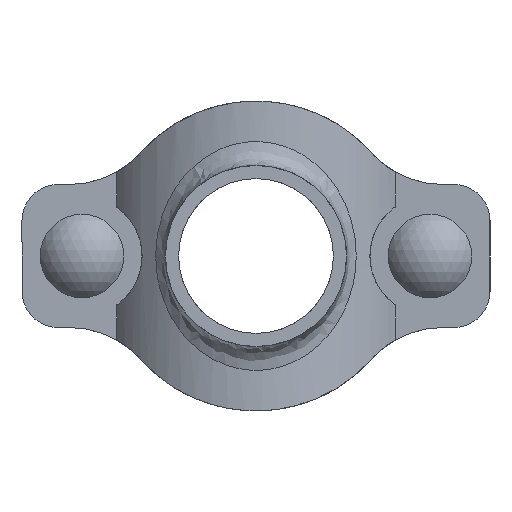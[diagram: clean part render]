
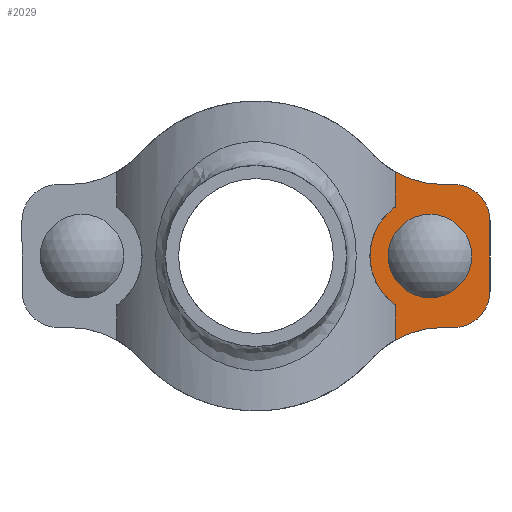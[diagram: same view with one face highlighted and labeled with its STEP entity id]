
A CAD part, front view. The second image highlights one B-rep face of the part: STEP entity #2029.
In plain terms, the highlighted planar face has unit normal (0, -1, 0) as drawn and (0, 1, 0) by its records, which use the part's own axes.
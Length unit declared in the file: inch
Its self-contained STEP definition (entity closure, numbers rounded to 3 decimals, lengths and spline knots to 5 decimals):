
#126=FACE_BOUND('',#349,.T.);
#219=FACE_OUTER_BOUND('',#348,.T.);
#348=EDGE_LOOP('',(#1667,#1668,#1669,#1670,#1671,#1672,#1673,#1674,#1675,
#1676));
#349=EDGE_LOOP('',(#1677,#1678,#1679,#1680));
#465=LINE('',#3864,#615);
#468=LINE('',#3970,#618);
#480=LINE('',#4014,#630);
#484=LINE('',#4025,#634);
#496=LINE('',#4219,#646);
#497=LINE('',#4223,#647);
#498=LINE('',#4227,#648);
#615=VECTOR('',#2675,0.3937);
#618=VECTOR('',#2678,0.3937);
#630=VECTOR('',#2726,0.3937);
#634=VECTOR('',#2738,0.3937);
#646=VECTOR('',#2800,0.3937);
#647=VECTOR('',#2803,0.3937);
#648=VECTOR('',#2806,0.3937);
#730=CIRCLE('',#2242,0.63);
#736=CIRCLE('',#2254,0.2875);
#738=CIRCLE('',#2258,0.2875);
#754=CIRCLE('',#2285,1.);
#755=CIRCLE('',#2286,0.38);
#756=CIRCLE('',#2287,0.38);
#757=CIRCLE('',#2288,1.);
#884=VERTEX_POINT('',#3843);
#885=VERTEX_POINT('',#3844);
#886=VERTEX_POINT('',#3863);
#895=VERTEX_POINT('',#3961);
#905=VERTEX_POINT('',#4004);
#906=VERTEX_POINT('',#4005);
#909=VERTEX_POINT('',#4013);
#911=VERTEX_POINT('',#4019);
#934=VERTEX_POINT('',#4216);
#935=VERTEX_POINT('',#4218);
#936=VERTEX_POINT('',#4220);
#937=VERTEX_POINT('',#4222);
#938=VERTEX_POINT('',#4224);
#939=VERTEX_POINT('',#4226);
#1125=EDGE_CURVE('',#886,#885,#465,.T.);
#1135=EDGE_CURVE('',#884,#895,#468,.T.);
#1138=EDGE_CURVE('',#884,#885,#730,.T.);
#1152=EDGE_CURVE('',#905,#906,#736,.T.);
#1156=EDGE_CURVE('',#906,#909,#480,.T.);
#1159=EDGE_CURVE('',#909,#911,#738,.T.);
#1162=EDGE_CURVE('',#911,#905,#484,.T.);
#1191=EDGE_CURVE('',#934,#895,#754,.T.);
#1192=EDGE_CURVE('',#935,#934,#496,.T.);
#1193=EDGE_CURVE('',#936,#935,#755,.T.);
#1194=EDGE_CURVE('',#937,#936,#497,.T.);
#1195=EDGE_CURVE('',#938,#937,#756,.T.);
#1196=EDGE_CURVE('',#939,#938,#498,.T.);
#1197=EDGE_CURVE('',#886,#939,#757,.T.);
#1667=ORIENTED_EDGE('',*,*,#1135,.T.);
#1668=ORIENTED_EDGE('',*,*,#1191,.F.);
#1669=ORIENTED_EDGE('',*,*,#1192,.F.);
#1670=ORIENTED_EDGE('',*,*,#1193,.F.);
#1671=ORIENTED_EDGE('',*,*,#1194,.F.);
#1672=ORIENTED_EDGE('',*,*,#1195,.F.);
#1673=ORIENTED_EDGE('',*,*,#1196,.F.);
#1674=ORIENTED_EDGE('',*,*,#1197,.F.);
#1675=ORIENTED_EDGE('',*,*,#1125,.T.);
#1676=ORIENTED_EDGE('',*,*,#1138,.F.);
#1677=ORIENTED_EDGE('',*,*,#1159,.T.);
#1678=ORIENTED_EDGE('',*,*,#1162,.T.);
#1679=ORIENTED_EDGE('',*,*,#1152,.T.);
#1680=ORIENTED_EDGE('',*,*,#1156,.T.);
#1820=PLANE('',#2284);
#2029=ADVANCED_FACE('',(#219,#126),#1820,.F.);
#2242=AXIS2_PLACEMENT_3D('',#3976,#2686,#2687);
#2254=AXIS2_PLACEMENT_3D('',#4006,#2718,#2719);
#2258=AXIS2_PLACEMENT_3D('',#4020,#2731,#2732);
#2284=AXIS2_PLACEMENT_3D('',#4215,#2796,#2797);
#2285=AXIS2_PLACEMENT_3D('',#4217,#2798,#2799);
#2286=AXIS2_PLACEMENT_3D('',#4221,#2801,#2802);
#2287=AXIS2_PLACEMENT_3D('',#4225,#2804,#2805);
#2288=AXIS2_PLACEMENT_3D('',#4228,#2807,#2808);
#2675=DIRECTION('',(0.,0.,-1.));
#2678=DIRECTION('',(0.,0.,-1.));
#2686=DIRECTION('center_axis',(0.,-1.,0.));
#2687=DIRECTION('ref_axis',(1.,0.,0.));
#2718=DIRECTION('center_axis',(0.,-1.,0.));
#2719=DIRECTION('ref_axis',(-1.,0.,0.));
#2726=DIRECTION('',(0.,0.,-1.));
#2731=DIRECTION('center_axis',(0.,-1.,0.));
#2732=DIRECTION('ref_axis',(1.,0.,0.));
#2738=DIRECTION('',(0.,0.,1.));
#2796=DIRECTION('center_axis',(0.,-1.,0.));
#2797=DIRECTION('ref_axis',(1.,0.,0.));
#2798=DIRECTION('center_axis',(0.,1.,0.));
#2799=DIRECTION('ref_axis',(0.,0.,-1.));
#2800=DIRECTION('',(1.,0.,0.));
#2801=DIRECTION('center_axis',(0.,-1.,0.));
#2802=DIRECTION('ref_axis',(0.,0.,-1.));
#2803=DIRECTION('',(0.,0.,-1.));
#2804=DIRECTION('center_axis',(0.,-1.,0.));
#2805=DIRECTION('ref_axis',(-1.,0.,0.));
#2806=DIRECTION('',(-1.,0.,0.));
#2807=DIRECTION('center_axis',(0.,1.,0.));
#2808=DIRECTION('ref_axis',(-0.745,0.,0.667));
#3843=CARTESIAN_POINT('',(-1.46045,1.,-0.51381));
#3844=CARTESIAN_POINT('',(-1.46045,1.,0.51381));
#3863=CARTESIAN_POINT('',(-1.46045,1.,0.88174));
#3864=CARTESIAN_POINT('',(-1.46045,1.,0.));
#3961=CARTESIAN_POINT('',(-1.46045,1.,-0.88174));
#3970=CARTESIAN_POINT('',(-1.46045,1.,0.));
#3976=CARTESIAN_POINT('Origin',(-1.825,1.,0.));
#4004=CARTESIAN_POINT('',(-1.5375,1.,0.0925));
#4005=CARTESIAN_POINT('',(-2.1125,1.,0.0925));
#4006=CARTESIAN_POINT('Origin',(-1.825,1.,0.0925));
#4013=CARTESIAN_POINT('',(-2.1125,1.,-0.0925));
#4014=CARTESIAN_POINT('',(-2.1125,1.,-0.04625));
#4019=CARTESIAN_POINT('',(-1.5375,1.,-0.0925));
#4020=CARTESIAN_POINT('Origin',(-1.825,1.,-0.0925));
#4025=CARTESIAN_POINT('',(-1.5375,1.,0.04625));
#4215=CARTESIAN_POINT('Origin',(-2.455,1.,0.));
#4216=CARTESIAN_POINT('',(-1.95656,1.,-0.75));
#4217=CARTESIAN_POINT('Origin',(-1.95656,1.,-1.75));
#4218=CARTESIAN_POINT('',(-2.075,1.,-0.75));
#4219=CARTESIAN_POINT('',(-2.20578,1.,-0.75));
#4220=CARTESIAN_POINT('',(-2.455,1.,-0.37));
#4221=CARTESIAN_POINT('Origin',(-2.075,1.,-0.37));
#4222=CARTESIAN_POINT('',(-2.455,1.,0.37));
#4223=CARTESIAN_POINT('',(-2.455,1.,-0.185));
#4224=CARTESIAN_POINT('',(-2.075,1.,0.75));
#4225=CARTESIAN_POINT('Origin',(-2.075,1.,0.37));
#4226=CARTESIAN_POINT('',(-1.95656,1.,0.75));
#4227=CARTESIAN_POINT('',(-2.265,1.,0.75));
#4228=CARTESIAN_POINT('Origin',(-1.95656,1.,1.75));
